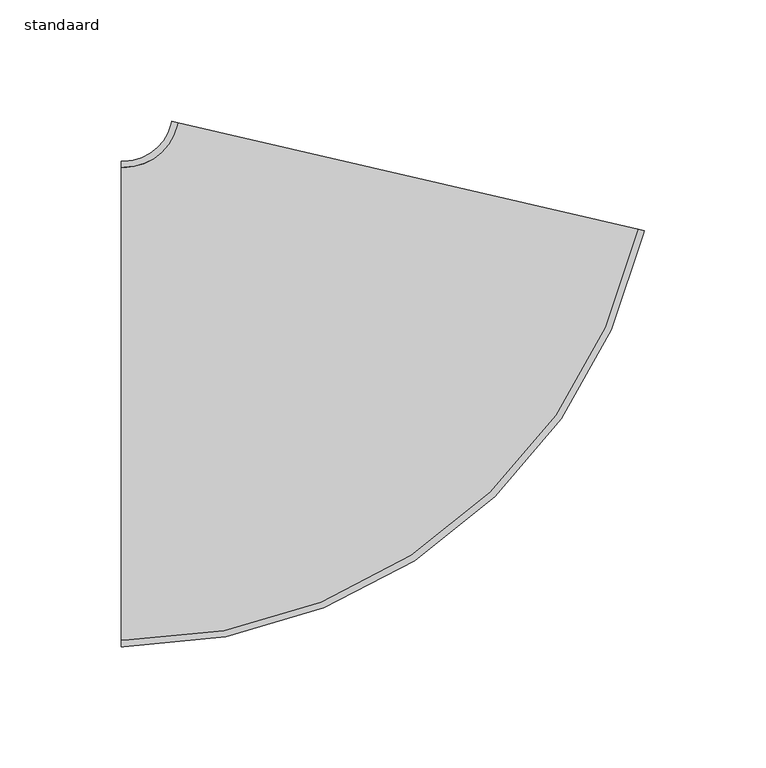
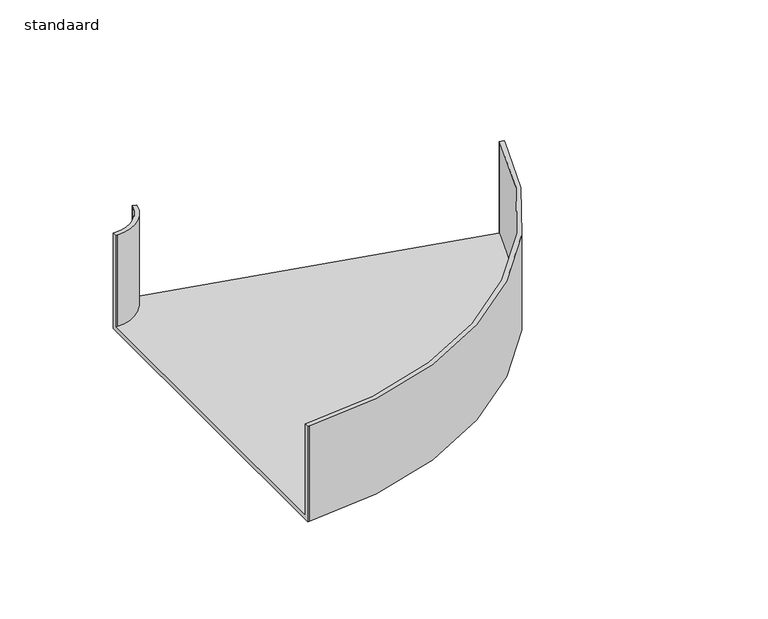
"""IFC4 building model written with IfcOpenShell, lengths in millimetres: cable carrier fitting geometry, AI_Raccord cdc_Coude horizontal rayon court : standaard."""

import ifcopenshell
import ifcopenshell.guid

model = None  # the IFC model being written
_history = None  # IfcOwnerHistory: only IFC2X3 demands one
_inside = {}  # id of a spatial element -> (the spatial element, [elements in it])
_under = {}  # id of a project, library or spatial element -> (it, [spatial elements below it])
_declared = {}  # id of a project -> (the project, [libraries it declares])
_typed = {}  # id of a type object -> (the type object, [elements of that type])
_made_of = {}  # id of a material, layer set ... -> (it, [elements and type objects made of it])


def new_model(schema):
    """Start an empty IFC model of exactly this schema.

    Asked for "IFC4X3", IfcOpenShell would pick the latest addendum, in which some entities
    have other attributes; the version numbers below select the first issue.
    IFC2X3 requires an IfcOwnerHistory on every rooted entity: one is made here for all.
    """
    global model, _history
    if schema == "IFC4X3":
        model = ifcopenshell.file(schema_version=(4, 3, 0, 0))
    else:
        model = ifcopenshell.file(schema=schema)
    _inside.clear()
    _under.clear()
    _declared.clear()
    _typed.clear()
    _made_of.clear()
    _history = None
    if model.schema == "IFC2X3":
        org = make("IfcOrganization", Name="unknown")
        user = make(
            "IfcPersonAndOrganization",
            ThePerson=make("IfcPerson", FamilyName="unknown"),
            TheOrganization=org,
        )
        app = make(
            "IfcApplication",
            ApplicationDeveloper=org,
            Version="unknown",
            ApplicationFullName="unknown",
            ApplicationIdentifier="unknown",
        )
        _history = make(
            "IfcOwnerHistory",
            OwningUser=user,
            OwningApplication=app,
            ChangeAction="ADDED",
            CreationDate=0,
        )
    return model


def make(cls, **values):
    """One entity of the class cls with the attributes given. An attribute that is None is left unset."""
    return model.create_entity(
        cls, **{name: value for name, value in values.items() if value is not None}
    )


def rooted(cls, **values):
    """An entity with a GlobalId (a new one), such as an element, a storey or a relation."""
    return make(cls, GlobalId=ifcopenshell.guid.new(), OwnerHistory=_history, **values)


def si_unit(unit_type, name, prefix=None):
    """IfcSIUnit, for example si_unit("LENGTHUNIT", "METRE", prefix="MILLI")."""
    return make("IfcSIUnit", UnitType=unit_type, Prefix=prefix, Name=name)


def assignment(units):
    """IfcUnitAssignment: the units of a project."""
    return None if units is None else make("IfcUnitAssignment", Units=units)


def point(xyz):
    """IfcCartesianPoint."""
    return None if xyz is None else make("IfcCartesianPoint", Coordinates=xyz)


def direction(xyz):
    """IfcDirection."""
    return None if xyz is None else make("IfcDirection", DirectionRatios=xyz)


def frame(location, z_axis=None, x_axis=None):
    """IfcAxis2Placement3D, a coordinate frame: its origin and axes. An axis left out is left unset."""
    return make(
        "IfcAxis2Placement3D",
        Location=point(location),
        Axis=direction(z_axis),
        RefDirection=direction(x_axis),
    )


def origin():
    """The frame at (0, 0, 0) with its axes left unset."""
    return frame((0.0, 0.0, 0.0))


def place(relative_to, where):
    """IfcLocalPlacement: puts the frame where relative to a parent placement (None: the world)."""
    return make(
        "IfcLocalPlacement", PlacementRelTo=relative_to, RelativePlacement=where
    )


def context(
    kind, dimensions, precision=None, world=None, true_north=None, identifier=None
):
    """IfcGeometricRepresentationContext, for example the 3D "Model" context."""
    return make(
        "IfcGeometricRepresentationContext",
        ContextIdentifier=identifier,
        ContextType=kind,
        CoordinateSpaceDimension=dimensions,
        Precision=precision,
        WorldCoordinateSystem=world,
        TrueNorth=true_north,
    )


def project(units=None, contexts=None):
    """IfcProject with its units and contexts."""
    return rooted(
        "IfcProject",
        Name="project",
        RepresentationContexts=contexts,
        UnitsInContext=assignment(units),
    )


def spatial(cls, under=None, at=None, **own):
    """A site, building, storey or space (cls), placed at a placement, below another one or the project."""
    s = rooted(cls, ObjectPlacement=at, **own)
    if under is not None:
        _under.setdefault(under.id(), (under, []))[1].append(s)
    return s


def polyline(points):
    """IfcPolyline through the points."""
    return make("IfcPolyline", Points=[point(p) for p in points])


def circle_curve(where, radius):
    """IfcCircle in the frame where."""
    return make("IfcCircle", Position=where, Radius=radius)


def shape(context_of_items, identifier, shape_type, items):
    """IfcShapeRepresentation: the items that make up one representation, for example the "Body"."""
    return make(
        "IfcShapeRepresentation",
        ContextOfItems=context_of_items,
        RepresentationIdentifier=identifier,
        RepresentationType=shape_type,
        Items=items,
    )


def source(mapping_origin, context_of_items, identifier, shape_type, items):
    """IfcRepresentationMap: a shape defined once, which mapped items show again and again."""
    return make(
        "IfcRepresentationMap",
        MappingOrigin=mapping_origin,
        MappedRepresentation=shape(context_of_items, identifier, shape_type, items),
    )


def transform(
    local_origin,
    x_axis=None,
    y_axis=None,
    z_axis=None,
    scale=None,
    scale2=None,
    scale3=None,
    uniform=True,
):
    """IfcCartesianTransformationOperator3D, or its non-uniform kind. x_axis, y_axis, z_axis: its Axis1, 2, 3."""
    if uniform:
        return make(
            "IfcCartesianTransformationOperator3D",
            Axis1=direction(x_axis),
            Axis2=direction(y_axis),
            LocalOrigin=point(local_origin),
            Scale=scale,
            Axis3=direction(z_axis),
        )
    return make(
        "IfcCartesianTransformationOperator3DnonUniform",
        Axis1=direction(x_axis),
        Axis2=direction(y_axis),
        LocalOrigin=point(local_origin),
        Scale=scale,
        Axis3=direction(z_axis),
        Scale2=scale2,
        Scale3=scale3,
    )


def mapped(mapping_source, mapping_target):
    """IfcMappedItem: shows the shape of a source again, moved by a transform."""
    return make(
        "IfcMappedItem", MappingSource=mapping_source, MappingTarget=mapping_target
    )


def made_of(thing, what):
    """Note that an element or type object is made of a material, layer set ...; save() writes the relation."""
    if what is not None:
        _made_of.setdefault(what.id(), (what, []))[1].append(thing)
    return thing


def element(
    cls,
    number,
    at=None,
    inside=None,
    cuts=None,
    type_object=None,
    material=None,
    context=None,
    identifier="Body",
    shape_type=None,
    held_by="IfcProductDefinitionShape",
    body=None,
    shapes=None,
    **own,
):
    """One element of the class cls, such as IfcWall. Its Tag is "e" and its number.

    at: its placement. inside: the storey or other place that contains it. cuts: it is an
    opening in that element (IfcRelVoidsElement). A single representation is given by context,
    identifier, shape_type and body (its items); several are given by shapes. held_by: the class
    of the entity that holds the representations. save() writes the other relations.
    """
    e = rooted(cls, Tag="e%d" % number, ObjectPlacement=at, **own)
    if body is not None:
        shapes = [shape(context, identifier, shape_type, body)]
    if shapes is not None:
        e.Representation = make(held_by, Representations=shapes)
    if inside is not None:
        _inside.setdefault(inside.id(), (inside, []))[1].append(e)
    if cuts is not None:
        rooted(
            "IfcRelVoidsElement", RelatingBuildingElement=cuts, RelatedOpeningElement=e
        )
    if type_object is not None:
        _typed.setdefault(type_object.id(), (type_object, []))[1].append(e)
    return made_of(e, material)


def aggregate(whole, parts):
    """IfcRelAggregates: a whole, such as a stair, and the parts it consists of."""
    return rooted("IfcRelAggregates", RelatingObject=whole, RelatedObjects=parts)


def save(model, path):
    """Write the relations noted so far, then the file.

    IfcRelAggregates (storeys below a building ...), IfcRelContainedInSpatialStructure (elements
    in a storey), IfcRelDefinesByType, IfcRelAssociatesMaterial and IfcRelDeclares: one each for
    every whole, place, type object, material and project.
    """
    for whole, parts in _under.values():
        aggregate(whole, parts)
    for where, things in _inside.values():
        rooted(
            "IfcRelContainedInSpatialStructure",
            RelatedElements=things,
            RelatingStructure=where,
        )
    for kind, things in _typed.values():
        rooted("IfcRelDefinesByType", RelatedObjects=things, RelatingType=kind)
    for what, things in _made_of.values():
        rooted("IfcRelAssociatesMaterial", RelatedObjects=things, RelatingMaterial=what)
    for by, libraries in _declared.values():
        rooted("IfcRelDeclares", RelatingContext=by, RelatedDefinitions=libraries)
    model.write(path)


def plane_surface(at):
    """IfcPlane: the flat surface through the origin of the frame at, square to its z axis."""
    return make("IfcPlane", Position=at)


def cylinder_surface(at, radius):
    """IfcCylindricalSurface: all points at the distance radius from the z axis of the frame at."""
    return make("IfcCylindricalSurface", Position=at, Radius=radius)


def revolved_surface(curve, axis_point, axis_direction):
    """IfcSurfaceOfRevolution: the curve turned about the line through axis_point along axis_direction."""
    return make(
        "IfcSurfaceOfRevolution",
        SweptCurve=make("IfcArbitraryOpenProfileDef", ProfileType="CURVE", Curve=curve),
        AxisPosition=make("IfcAxis1Placement", Location=point(axis_point), Axis=direction(axis_direction)),
    )


def advanced_brep(points, edges, surfaces, faces):
    """IfcAdvancedBrep: a solid bounded by faces that lie on surfaces and meet in shared edges.

    An edge is (start, end): straight between two places in points (the first is 0);
    or (start, end, curve); or (start, end, curve, False) where it runs against its curve.
    A face is (place in surfaces, loops), or (place, loops, False) where it looks against
    its surface's normal. A loop lists edges by number (the first is 1), with a minus sign
    where the edge is run from its end to its start. The first loop is the outer one.
    """
    corners = [point(p) for p in points]
    vertices = [make("IfcVertexPoint", VertexGeometry=c) for c in corners]
    made = []
    for start, end, *more in edges:
        made.append(
            make(
                "IfcEdgeCurve",
                EdgeStart=vertices[start],
                EdgeEnd=vertices[end],
                EdgeGeometry=more[0] if more else make("IfcPolyline", Points=[corners[start], corners[end]]),
                SameSense=more[1] if len(more) > 1 else True,
            )
        )
    hull = []
    for where, loops, *sense in faces:
        bounds = []
        for j, loop in enumerate(loops):
            ring = [make("IfcOrientedEdge", EdgeElement=made[abs(k) - 1], Orientation=k > 0) for k in loop]
            bounds.append(
                make(
                    "IfcFaceOuterBound" if j == 0 else "IfcFaceBound",
                    Bound=make("IfcEdgeLoop", EdgeList=ring),
                    Orientation=True,
                )
            )
        hull.append(make("IfcAdvancedFace", Bounds=bounds, FaceSurface=surfaces[where], SameSense=sense[0] if sense else True))
    return make("IfcAdvancedBrep", Outer=make("IfcClosedShell", CfsFaces=hull))


def standaard_749a00b5(model_context):
    return source(origin(), model_context, "Body", "AdvancedBrep", [
        advanced_brep(
        [(-96.4527682, -100.0, -30.0), (-96.4527682, -100.0, 30.0), (-96.4527682, -97.46, 30.0), (-96.4527682, -97.46, -27.46), (-96.4527682, 97.46, -27.46), (-96.4527682, 97.46, 30.0), (-96.4527682, 100.0, 30.0), (-96.4527682, 100.0, -30.0), (119.133824, 71.4861417, -30.0), (-75.7403993, 116.4754412, -30.0), (-75.7403993, 116.4754412, 30.0), (-73.2654967, 115.9040771, 30.0), (-73.2654967, 115.9040771, -27.46), (116.6589214, 72.0575058, -27.46), (116.6589214, 72.0575058, 30.0), (119.133824, 71.4861417, 30.0), (-95.4527682, -100.0, -30.0), (-95.4527682, -100.0, 30.0), (118.9088775, 70.5117706, 30.0), (116.4339749, 71.0831347, 30.0), (-95.4527682, -97.46, 30.0), (-95.4527682, -97.46, -27.46), (116.4339749, 71.0831347, -27.46), (-73.4904432, 114.9297059, -27.46), (-95.4527682, 97.46, -27.46), (-95.4527682, 97.46, 30.0), (-73.4904432, 114.9297059, 30.0), (-75.9653458, 115.5010701, 30.0), (-95.4527682, 100.0, 30.0), (-95.4527682, 100.0, -30.0), (-75.9653458, 115.5010701, -30.0), (118.9088775, 70.5117706, -30.0)],
        [
            (0, 1),
            (1, 2),
            (2, 3),
            (3, 4),
            (4, 5),
            (5, 6),
            (6, 7),
            (7, 0),
            (8, 9),
            (9, 10),
            (10, 11),
            (11, 12),
            (12, 13),
            (13, 14),
            (14, 15),
            (15, 8),
            (0, 16),
            (16, 17),
            (17, 1),
            (17, 18, circle_curve(frame((-95.4527682, 120.0, 30.0), z_axis=(0.0, 0.0, 1.0), x_axis=(0.0, -1.0, 0.0)), 220.0)),
            (18, 15),
            (14, 19),
            (19, 20, circle_curve(frame((-95.4527682, 120.0, 30.0), z_axis=(0.0, 0.0, -1.0), x_axis=(0.0, -1.0, 0.0)), 217.46)),
            (20, 2),
            (20, 21),
            (21, 3),
            (21, 22, circle_curve(frame((-95.4527682, 120.0, -27.46), z_axis=(0.0, 0.0, 1.0), x_axis=(0.0, -1.0, 0.0)), 217.46)),
            (22, 13),
            (12, 23),
            (23, 24, circle_curve(frame((-95.4527682, 120.0, -27.46), z_axis=(0.0, 0.0, -1.0), x_axis=(0.0, -1.0, 0.0)), 22.54)),
            (24, 4),
            (24, 25),
            (25, 5),
            (25, 26, circle_curve(frame((-95.4527682, 120.0, 30.0), z_axis=(0.0, 0.0, 1.0), x_axis=(0.0, -1.0, 0.0)), 22.54)),
            (26, 11),
            (10, 27),
            (27, 28, circle_curve(frame((-95.4527682, 120.0, 30.0), z_axis=(0.0, 0.0, -1.0), x_axis=(0.0, -1.0, 0.0)), 20.0)),
            (28, 6),
            (28, 29),
            (29, 7),
            (29, 30, circle_curve(frame((-95.4527682, 120.0, -30.0), z_axis=(0.0, 0.0, 1.0), x_axis=(0.0, -1.0, 0.0)), 20.0)),
            (30, 9),
            (8, 31),
            (31, 16, circle_curve(frame((-95.4527682, 120.0, -30.0), z_axis=(0.0, 0.0, -1.0), x_axis=(0.0, -1.0, 0.0)), 220.0)),
            (31, 18),
            (19, 22),
            (23, 26),
            (27, 30),
        ],
        [
            plane_surface(frame((-96.4527682, 0.0, 0.0), z_axis=(-1.0, -4.910971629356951e-12, 0.0), x_axis=(0.0, 0.0, 1.0))),
            plane_surface(frame((21.6967124, 93.9807914, 0.0), z_axis=(0.2249464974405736, 0.9743711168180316, 0.0), x_axis=(0.0, 0.0, 1.0))),
            plane_surface(frame((-96.4527682, -100.0, -30.0), z_axis=(4.906741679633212e-12, -1.0, 0.0), x_axis=(1.0, 4.906741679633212e-12, 0.0))),
            plane_surface(frame((-96.4527682, -100.0, 30.0), z_axis=(0.0, 0.0, 1.0), x_axis=(1.0, 4.906741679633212e-12, 0.0))),
            plane_surface(frame((-96.4527682, -97.46, 30.0), z_axis=(-4.889821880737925e-12, 1.0, 0.0), x_axis=(1.0, 4.889821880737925e-12, 0.0))),
            plane_surface(frame((-96.4527682, -97.46, -27.46), z_axis=(0.0, 0.0, 1.0), x_axis=(1.0, 4.906741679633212e-12, 0.0))),
            plane_surface(frame((-96.4527682, 97.46, -27.46), z_axis=(4.906741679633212e-12, -1.0, 0.0), x_axis=(1.0, 4.906741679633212e-12, 0.0))),
            plane_surface(frame((-96.4527682, 97.46, 30.0), z_axis=(0.0, 0.0, 1.0), x_axis=(1.0, 4.906741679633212e-12, 0.0))),
            plane_surface(frame((-96.4527682, 100.0, 30.0), z_axis=(-4.906741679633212e-12, 1.0, 0.0), x_axis=(1.0, 4.906741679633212e-12, 0.0))),
            plane_surface(frame((-96.4527682, 100.0, -30.0), z_axis=(0.0, 0.0, -1.0), x_axis=(1.0, 4.906741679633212e-12, 0.0))),
            cylinder_surface(frame((-95.4527682, 120.0, 0.0), z_axis=(0.0, 0.0, 1.0), x_axis=(0.0, -1.0, 0.0)), 220.0),
            revolved_surface(polyline([(-95.4527682, -97.46000000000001, 30.0), (-95.4527682, -97.46000000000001, -27.46)]), (-95.4527682, 120.0, 0.0), (0.0, 0.0, 1.0)),
            cylinder_surface(frame((-95.4527682, 120.0, 0.0), z_axis=(0.0, 0.0, 1.0), x_axis=(0.0, -1.0, 0.0)), 22.54),
            revolved_surface(polyline([(-95.4527682, 100.0, 30.0), (-95.4527682, 100.0, -30.0)]), (-95.4527682, 120.0, 0.0), (0.0, 0.0, 1.0)),
            plane_surface(frame((118.9088775, 70.5117706, -30.0), z_axis=(0.9743711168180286, -0.22494649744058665, 0.0), x_axis=(0.22494649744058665, 0.9743711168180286, 0.0))),
            plane_surface(frame((116.4339749, 71.0831347, 30.0), z_axis=(-0.9743711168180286, 0.22494649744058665, 0.0), x_axis=(0.22494649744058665, 0.9743711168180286, 0.0))),
            plane_surface(frame((-73.4904432, 114.9297059, -27.46), z_axis=(0.9743711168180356, -0.22494649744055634, 0.0), x_axis=(0.22494649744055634, 0.9743711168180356, 0.0))),
            plane_surface(frame((-75.9653458, 115.5010701, 30.0), z_axis=(-0.9743711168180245, 0.22494649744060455, 0.0), x_axis=(0.22494649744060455, 0.9743711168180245, 0.0))),
        ],
        [
            (0, [[1, 2, 3, 4, 5, 6, 7, 8]]),
            (1, [[9, 10, 11, 12, 13, 14, 15, 16]]),
            (2, [[-1, 17, 18, 19]]),
            (3, [[-2, -19, 20, 21, -15, 22, 23, 24]]),
            (4, [[-3, -24, 25, 26]]),
            (5, [[-4, -26, 27, 28, -13, 29, 30, 31]]),
            (6, [[-5, -31, 32, 33]]),
            (7, [[-6, -33, 34, 35, -11, 36, 37, 38]]),
            (8, [[-7, -38, 39, 40]]),
            (9, [[-8, -40, 41, 42, -9, 43, 44, -17]]),
            (10, [[-20, -18, -44, 45]]),
            (11, [[-27, -25, -23, 46]]),
            (12, [[-34, -32, -30, 47]]),
            (13, [[-41, -39, -37, 48]]),
            (14, [[-45, -43, -16, -21]]),
            (15, [[-46, -22, -14, -28]]),
            (16, [[-47, -29, -12, -35]]),
            (17, [[-48, -36, -10, -42]]),
        ],
    ),
    ])


if __name__ == "__main__":
    model = new_model("IFC4")
    model_context = context("Model", 3, world=origin())
    ifc_project = project(units=[si_unit("LENGTHUNIT", "METRE", prefix="MILLI")], contexts=[model_context])
    site = spatial("IfcSite", under=ifc_project)
    building = spatial("IfcBuilding", under=site)
    placement = place(None, origin())
    standaard_shape = standaard_749a00b5(model_context)
    element("IfcCableCarrierFitting", 1, ObjectType="AI_Raccord cdc_Coude horizontal rayon court : standaard", at=placement, inside=building, context=model_context, shape_type="MappedRepresentation", body=[
        mapped(standaard_shape, transform((0.0, 0.0, 0.0), x_axis=(1.0, 0.0, 0.0), y_axis=(0.0, 1.0, 0.0), z_axis=(0.0, 0.0, 1.0))),
    ])
    save(model, "model.ifc")
